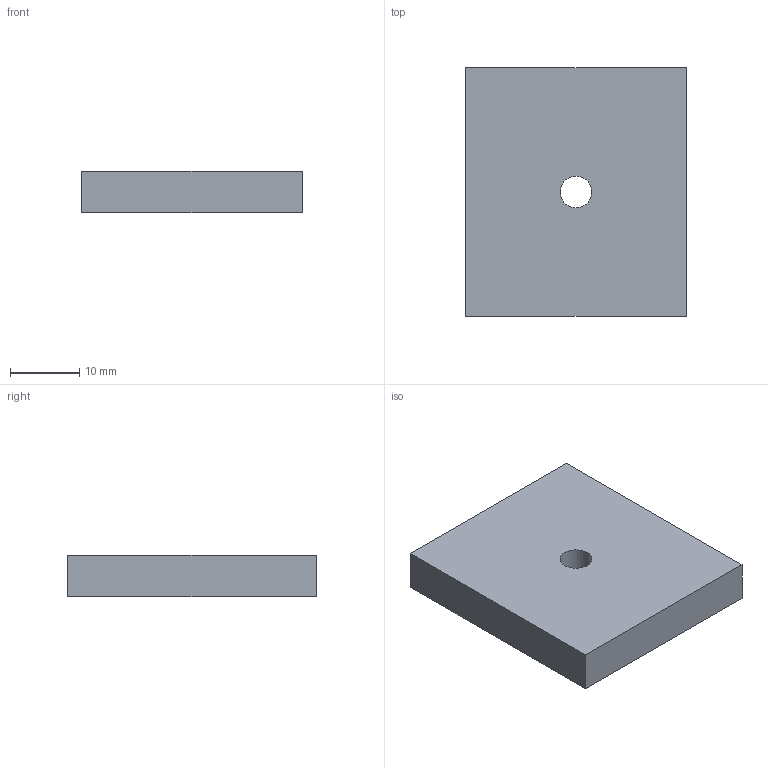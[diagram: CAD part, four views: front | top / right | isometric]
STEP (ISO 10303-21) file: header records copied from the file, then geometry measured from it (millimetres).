
FILE_DESCRIPTION(('Open CASCADE Model'),'2;1');
FILE_NAME('Open CASCADE Shape Model','2026-10-13T11:47:36',('Author'),( 'Open CASCADE'),'Open CASCADE STEP processor 7.8','Open CASCADE 7.8' ,'Unknown');
FILE_SCHEMA(('AUTOMOTIVE_DESIGN { 1 0 10303 214 1 1 1 1 }'));
Length unit declared in the file: millimetre
Products named in the file (1): Open CASCADE STEP translator 7.8 21
Bounding box: 32 x 36 x 6 mm (x, y, z)
Volume: 6812.3 mm3; surface area: 3173.5 mm2
Topology: 1 solids, 1 shells, 7 faces, 15 edges, 10 vertices
Faces by surface type: plane 6, cylinder 1
Full cylindrical faces by diameter (mm): 4.6 x1
Entity records: 406 total; most frequent: CARTESIAN_POINT 75, DIRECTION 61, LINE 41, VECTOR 41, ORIENTED_EDGE 30, PCURVE 30, DEFINITIONAL_REPRESENTATION 30, EDGE_CURVE 15
